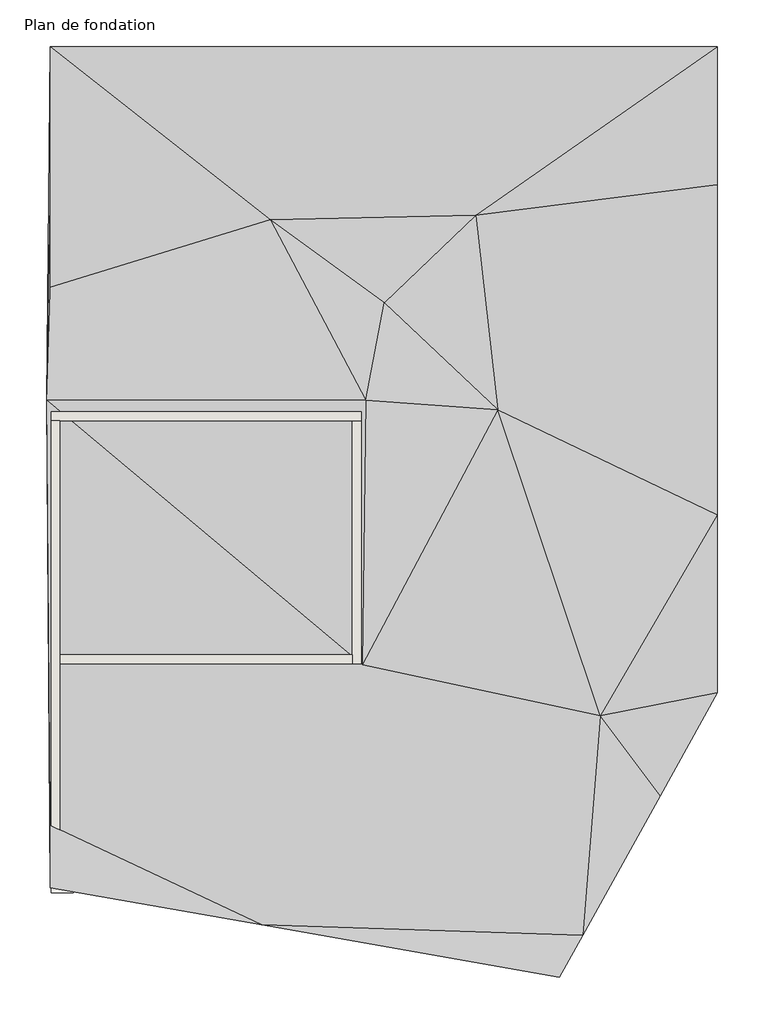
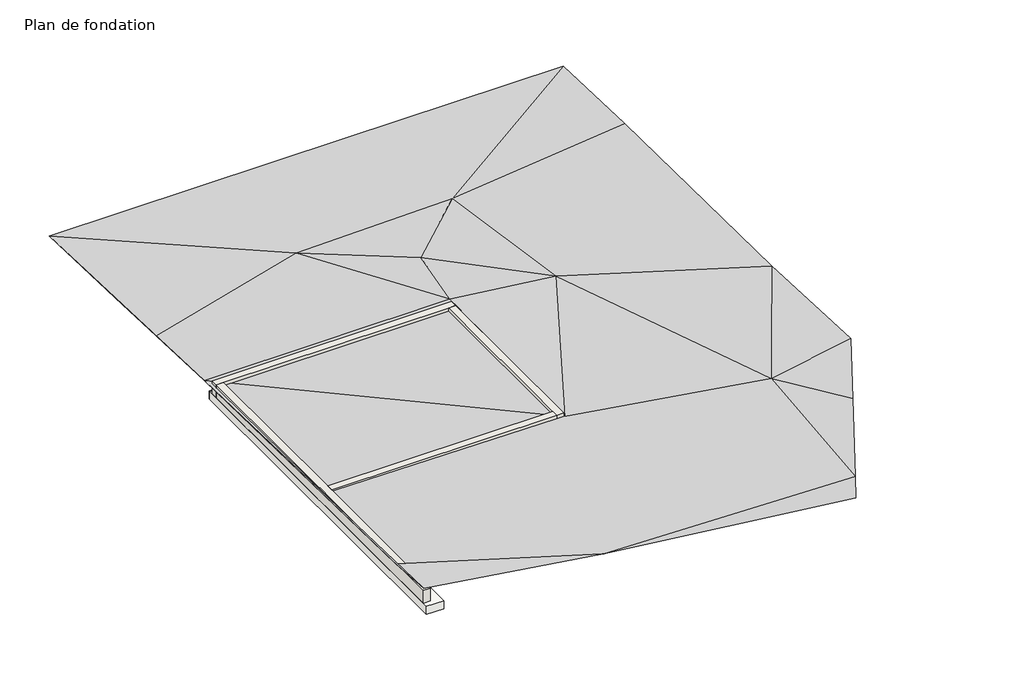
# One storey: 4 footings, 4 walls, 1 proxy.
"""IFC4 building model written with IfcOpenShell, lengths in millimetres."""

from ifc_helpers import new_model, si_unit, frame, origin, place, context, project, spatial, polyline, outline, extrude, faceted_brep, triangles, element, save

model = new_model("IFC4")

# Units and contexts
model_context = context("Model", 3, world=origin())
ifc_project = project(units=[si_unit("LENGTHUNIT", "METRE", prefix="MILLI")], contexts=[model_context])

# Site, building, storey
site = spatial("IfcSite", under=ifc_project)
building = spatial("IfcBuilding", under=site)
storey = spatial("IfcBuildingStorey", under=building, Name="Plan de fondation", Elevation=-650.0)

# Proxy
placement = place(None, origin())
element("IfcBuildingElementProxy", 1, Name="Building Element Proxy", at=placement, inside=storey, context=model_context, shape_type="Tessellation", body=[
    triangles([(-3585.0276855, 36847.3369263, -500.0000038), (5035.1258011, 36847.3369263, -500.0000038), (11377.8520203, 36847.3369263, -500.0000038), (-3585.0276855, 33552.8240662, -400.0000031), (1357.9688553, 32964.4785828, -400.0000031), (5966.6718475, 33062.5377136, -400.0000031), (11377.8520203, 33748.9400024, -400.0000031), (-3585.0276855, 31444.5876343, -300.0000023), (3907.464109, 31101.3876526, -300.0000023), (6456.9593628, 28698.978479, -300.0000023), (11377.8520203, 26345.5965454, -300.0000023), (-3665.0277443, 28906.9332275, -100.0000008), (3494.9724266, 28906.9332275, -100.0000008), (3414.9723679, 22976.9323975, -100.0000008), (8761.3111496, 21834.9509399, -100.0000008), (10099.0533325, 20040.3232727, -100.0000008), (-3585.0276855, 19380.7972504, 0.0), (1163.8612267, 17139.5759125, 0.0), (8365.2027695, 16912.3735016, 0.0), (-3585.0276855, 17976.9329407, 100.0000008), (7838.7424622, 15962.614032, 100.0000008), (11377.8520203, 22347.338269, -100.0000008)], [[20, 17, 12], [17, 20, 18], [17, 14, 12], [14, 18, 19], [9, 13, 10], [14, 17, 18], [12, 14, 13], [12, 4, 1], [4, 12, 8], [1, 4, 5], [12, 5, 8], [12, 13, 5], [1, 5, 2], [8, 5, 4], [13, 9, 5], [6, 5, 9], [13, 14, 10], [19, 15, 14], [11, 7, 10], [15, 16, 22], [16, 15, 19], [10, 15, 11], [15, 22, 11], [15, 10, 14], [5, 6, 2], [9, 10, 6], [6, 10, 7], [2, 6, 3], [21, 19, 18], [7, 3, 6]], closed=False),
])

# Footings
element("IfcFooting", 2, ObjectType="fondation excentrée 50 x 25", at=placement, inside=storey, context=model_context, shape_type="Brep", body=[
    faceted_brep([(-3065.0276062, 17866.9326555, -650.0), (-3065.0276062, 17866.9326555, -400.0), (-3565.0276062, 17866.9326555, -400.0), (-3565.0276062, 17866.9326555, -650.0), (-3065.0276062, 22846.9326555, -400.0), (-3065.0276062, 23346.9326555, -400.0), (-3065.0276062, 28306.9326555, -400.0), (-3565.0276062, 28806.9326555, -400.0), (-3065.0276062, 22846.9326555, -650.0), (-3065.0276062, 23346.9326555, -650.0), (-3065.0276062, 28306.9326555, -650.0), (-3565.0276062, 28806.9326555, -650.0)], [[[0, 1, 2, 3]], [[1, 4, 5, 6, 7, 2]], [[1, 0, 8, 9, 10, 6, 5, 4]], [[0, 3, 11, 10, 9, 8]], [[3, 2, 7, 11]], [[7, 6, 10, 11]]]),
])
element("IfcFooting", 3, ObjectType="Fondation 50 x 25", at=placement, inside=storey, context=model_context, shape_type="SweptSolid", body=[
    extrude(outline(polyline([(3044.9723938, 28306.9326555), (3544.9723938, 28806.9326555), (3544.9723938, 22846.9326555), (3044.9723938, 23346.9326555), (3044.9723938, 28306.9326555)])), frame((0.0, 0.0, -650.0), z_axis=(0.0, 0.0, 1.0), x_axis=(1.0, 0.0, 0.0)), (0.0, 0.0, 1.0), 250.0),
])
element("IfcFooting", 4, ObjectType="Fondation 50 x 25", at=placement, inside=storey, context=model_context, shape_type="SweptSolid", body=[
    extrude(outline(polyline([(-3065.0276062, 28306.9326555), (-3565.0276062, 28806.9326555), (3544.9723938, 28806.9326555), (3044.9723938, 28306.9326555), (-3065.0276062, 28306.9326555)])), frame((0.0, 0.0, -650.0), z_axis=(0.0, 0.0, 1.0), x_axis=(1.0, 0.0, 0.0)), (0.0, 0.0, 1.0), 250.0),
])
element("IfcFooting", 5, ObjectType="Fondation 50 x 25", at=placement, inside=storey, context=model_context, shape_type="SweptSolid", body=[
    extrude(outline(polyline([(3044.9723938, 23346.9326555), (3544.9723938, 22846.9326555), (-3065.0276062, 22846.9326555), (-3065.0276062, 23346.9326555), (3044.9723938, 23346.9326555)])), frame((0.0, 0.0, -650.0), z_axis=(0.0, 0.0, 1.0), x_axis=(1.0, 0.0, 0.0)), (0.0, 0.0, 1.0), 250.0),
])

# Walls
element("IfcWall", 6, ObjectType="Soubassement BBM plein 20 cm", at=placement, inside=storey, context=model_context, shape_type="Brep", body=[
    faceted_brep([(-3565.0276062, 28456.9326555, -400.0), (-3365.0276062, 28456.9326555, -400.0), (3194.9723938, 28456.9326555, -400.0), (3394.9723938, 28456.9326555, -400.0), (3394.9723938, 28456.9326555, 0.0), (3194.9723938, 28456.9326555, 0.0), (-3365.0276062, 28456.9326555, 0.0), (-3565.0276062, 28456.9326555, 0.0), (-3565.0276062, 28656.9326555, -400.0), (-3565.0276062, 28656.9326555, 0.0), (3394.9723938, 28656.9326555, 0.0), (3394.9723938, 28656.9326555, -400.0)], [[[0, 1, 2, 3, 4, 5, 6, 7]], [[8, 9, 10, 11]], [[3, 2, 1, 0, 8, 11]], [[7, 6, 5, 4, 10, 9]], [[4, 3, 11, 10]], [[0, 7, 9, 8]]]),
])
element("IfcWall", 7, ObjectType="Soubassement BBM plein 20 cm", at=placement, inside=storey, context=model_context, shape_type="Brep", body=[
    faceted_brep([(3194.9723938, 28456.9326555, -400.0), (3194.9723938, 23196.9326555, -400.0), (3194.9723938, 22996.9326555, -400.0), (3194.9723938, 22996.9326555, 0.0), (3194.9723938, 23196.9326555, 0.0), (3194.9723938, 28456.9326555, 0.0), (3394.9723938, 28456.9326555, -400.0), (3394.9723938, 28456.9326555, 0.0), (3394.9723938, 22996.9326555, 0.0), (3394.9723938, 22996.9326555, -400.0)], [[[0, 1, 2, 3, 4, 5]], [[6, 7, 8, 9]], [[2, 1, 0, 6, 9]], [[5, 4, 3, 8, 7]], [[3, 2, 9, 8]], [[0, 5, 7, 6]]]),
])
element("IfcWall", 8, ObjectType="Soubassement BBM plein 20 cm", at=placement, inside=storey, context=model_context, shape_type="SweptSolid", body=[
    extrude(outline(polyline([(-3365.0276062, 23196.9326555), (3194.9723938, 23196.9326555), (3194.9723938, 22996.9326555), (-3365.0276062, 22996.9326555), (-3365.0276062, 23196.9326555)])), frame((0.0, 0.0, -400.0), z_axis=(0.0, 0.0, 1.0), x_axis=(1.0, 0.0, 0.0)), (0.0, 0.0, 1.0), 400.0),
])
element("IfcWall", 9, ObjectType="Soubassement BBM plein 20 cm", at=placement, inside=storey, context=model_context, shape_type="Brep", body=[
    faceted_brep([(-3565.0276062, 28456.9326555, -400.0), (-3565.0276062, 18016.9326555, -400.0), (-3565.0276062, 18016.9326555, 0.0), (-3565.0276062, 28456.9326555, 0.0), (-3365.0276062, 28456.9326555, -400.0), (-3365.0276062, 28456.9326555, 0.0), (-3365.0276062, 23196.9326555, 0.0), (-3365.0276062, 22996.9326555, 0.0), (-3365.0276062, 18016.9326555, 0.0), (-3365.0276062, 18016.9326555, -400.0), (-3365.0276062, 22996.9326555, -400.0), (-3365.0276062, 23196.9326555, -400.0)], [[[0, 1, 2, 3]], [[4, 5, 6, 7, 8, 9, 10, 11]], [[1, 0, 4, 11, 10, 9]], [[2, 1, 9, 8]], [[3, 2, 8, 7, 6, 5]], [[0, 3, 5, 4]]]),
])

save(model, "model.ifc")
